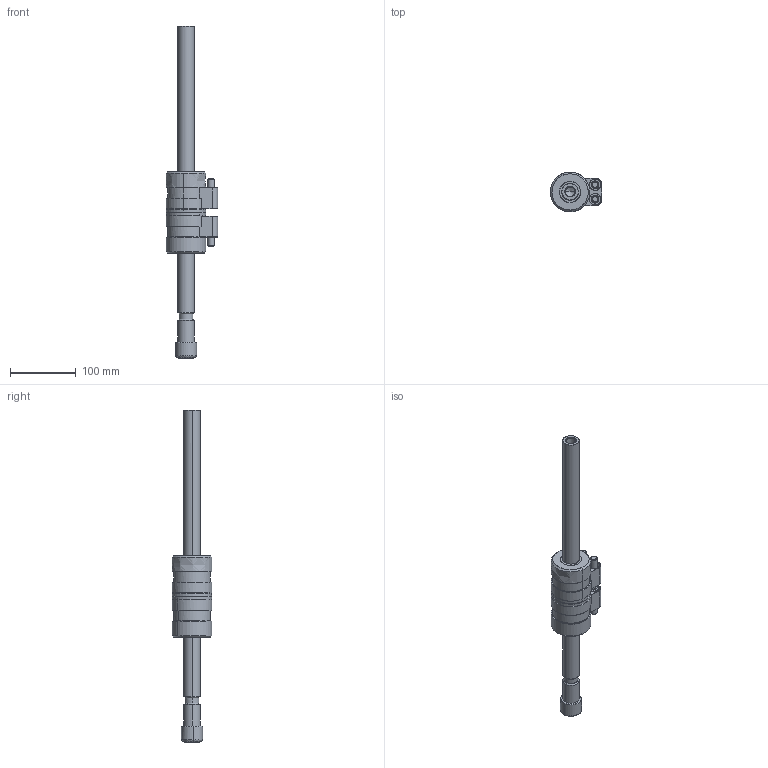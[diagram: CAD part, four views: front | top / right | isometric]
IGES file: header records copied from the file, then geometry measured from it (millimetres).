
Start section: START RECORD GO HERE.
Global section: file name: sx256062.igs; native system: DASSAULT SYSTEMES CATIA V5 R20 - www.3ds.com; preprocessor: CATIA Version 5 Release 20 ; author: Utente; organization: NB04-ASUS; date: 20201107.133139; units: millimetre
Bounding box: 77.98 x 59.98 x 504 mm (x, y, z)
Surface area: 158165.1 mm2 (no closed solid volume)
Topology: 0 solids, 0 shells, 1544 faces, 7843 edges, 7775 vertices
Faces by surface type: revolution 679, bspline 594, plane 271
